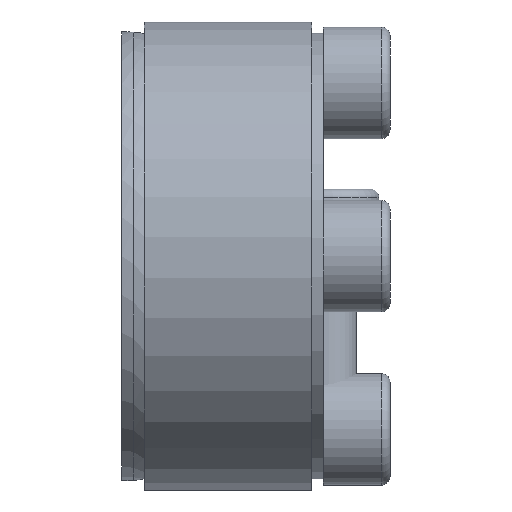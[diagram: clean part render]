
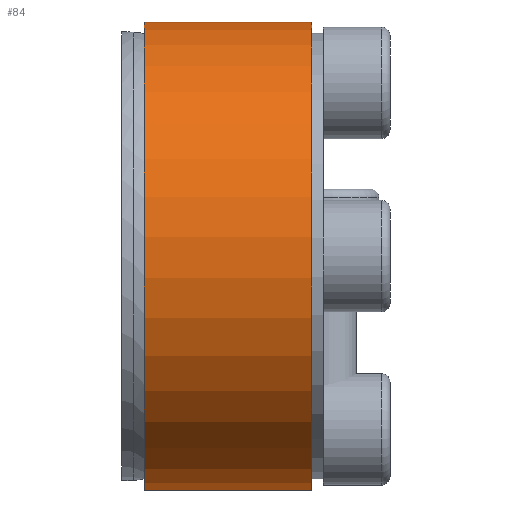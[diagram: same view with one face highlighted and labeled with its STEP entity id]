
A CAD part, left-side view. The second image highlights one B-rep face of the part: STEP entity #84.
In plain terms, the highlighted cylindrical face has radius 21 mm (diameter 42 mm), a partial arc.
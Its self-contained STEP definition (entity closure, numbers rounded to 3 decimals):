
#84 = ADVANCED_FACE( '', ( #171 ), #172, .T. );
#171 = FACE_OUTER_BOUND( '', #281, .T. );
#172 = CYLINDRICAL_SURFACE( '', #282, 21. );
#281 = EDGE_LOOP( '', ( #464, #465, #466, #467 ) );
#282 = AXIS2_PLACEMENT_3D( '', #468, #469, #470 );
#464 = ORIENTED_EDGE( '', *, *, #685, .F. );
#465 = ORIENTED_EDGE( '', *, *, #695, .T. );
#466 = ORIENTED_EDGE( '', *, *, #673, .T. );
#467 = ORIENTED_EDGE( '', *, *, #696, .F. );
#468 = CARTESIAN_POINT( '', ( 0., -60., 0. ) );
#469 = DIRECTION( '', ( 0., 1., 0. ) );
#470 = DIRECTION( '', ( 0., 0., -1. ) );
#673 = EDGE_CURVE( '', #816, #831, #833, .T. );
#685 = EDGE_CURVE( '', #851, #852, #853, .T. );
#695 = EDGE_CURVE( '', #851, #816, #867, .T. );
#696 = EDGE_CURVE( '', #852, #831, #868, .T. );
#816 = VERTEX_POINT( '', #1088 );
#831 = VERTEX_POINT( '', #1113 );
#833 = LINE( '', #1116, #1117 );
#851 = VERTEX_POINT( '', #1138 );
#852 = VERTEX_POINT( '', #1139 );
#853 = LINE( '', #1140, #1141 );
#867 = CIRCLE( '', #1163, 21. );
#868 = CIRCLE( '', #1164, 21. );
#1088 = CARTESIAN_POINT( '', ( 15.199, 16., 14.491 ) );
#1113 = CARTESIAN_POINT( '', ( 15.199, 1., 14.491 ) );
#1116 = CARTESIAN_POINT( '', ( 15.199, -60., 14.491 ) );
#1117 = VECTOR( '', #1268, 1000. );
#1138 = CARTESIAN_POINT( '', ( 14.491, 16., 15.199 ) );
#1139 = CARTESIAN_POINT( '', ( 14.491, 1., 15.199 ) );
#1140 = CARTESIAN_POINT( '', ( 14.491, -60., 15.199 ) );
#1141 = VECTOR( '', #1287, 1000. );
#1163 = AXIS2_PLACEMENT_3D( '', #1296, #1297, #1298 );
#1164 = AXIS2_PLACEMENT_3D( '', #1299, #1300, #1301 );
#1268 = DIRECTION( '', ( 0., -1., 0. ) );
#1287 = DIRECTION( '', ( 0., -1., 0. ) );
#1296 = CARTESIAN_POINT( '', ( 0., 16., 0. ) );
#1297 = DIRECTION( '', ( 0., -1., 0. ) );
#1298 = DIRECTION( '', ( 0., 0., -1. ) );
#1299 = CARTESIAN_POINT( '', ( 0., 1., 0. ) );
#1300 = DIRECTION( '', ( 0., -1., 0. ) );
#1301 = DIRECTION( '', ( 0., 0., -1. ) );
